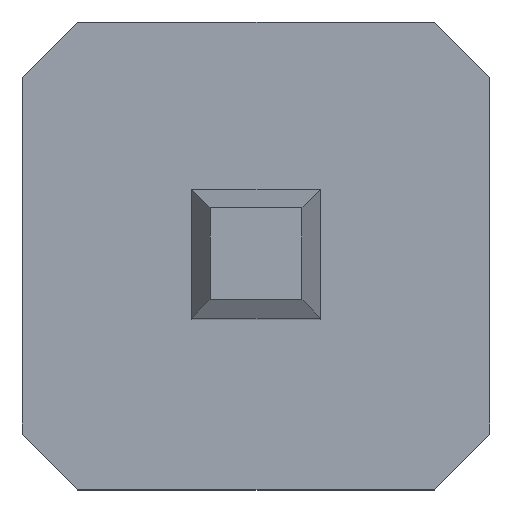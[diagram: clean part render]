
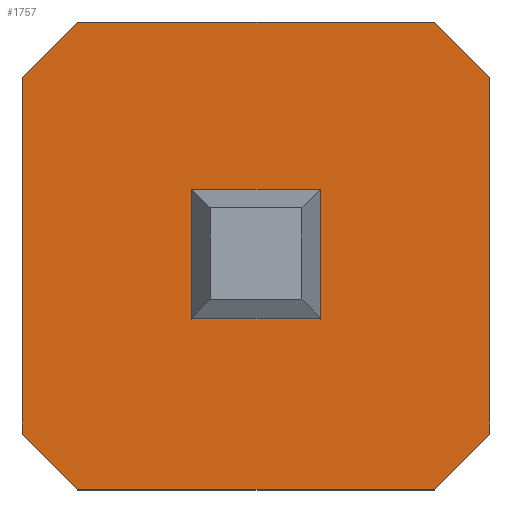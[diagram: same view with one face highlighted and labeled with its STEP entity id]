
A CAD part, top view. The second image highlights one B-rep face of the part: STEP entity #1757.
In plain terms, the highlighted planar face has unit normal (0, 0, 1).
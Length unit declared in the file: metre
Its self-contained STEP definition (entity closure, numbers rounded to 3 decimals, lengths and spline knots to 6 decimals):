
#194=LINE('',#3763,#396);
#196=LINE('',#3767,#398);
#198=LINE('',#3771,#400);
#199=LINE('',#3773,#401);
#218=LINE('',#3814,#420);
#219=LINE('',#3817,#421);
#220=LINE('',#3819,#422);
#221=LINE('',#3821,#423);
#222=LINE('',#3823,#424);
#223=LINE('',#3825,#425);
#224=LINE('',#3827,#426);
#225=LINE('',#3829,#427);
#396=VECTOR('',#2724,1.);
#398=VECTOR('',#2728,1.);
#400=VECTOR('',#2732,1.);
#401=VECTOR('',#2735,1.);
#420=VECTOR('',#2766,1.);
#421=VECTOR('',#2767,1.);
#422=VECTOR('',#2768,1.);
#423=VECTOR('',#2769,1.);
#424=VECTOR('',#2770,1.);
#425=VECTOR('',#2771,1.);
#426=VECTOR('',#2772,1.);
#427=VECTOR('',#2773,1.);
#798=ORIENTED_EDGE('',*,*,#1116,.T.);
#799=ORIENTED_EDGE('',*,*,#1117,.T.);
#800=ORIENTED_EDGE('',*,*,#1118,.T.);
#801=ORIENTED_EDGE('',*,*,#1119,.T.);
#802=ORIENTED_EDGE('',*,*,#1120,.T.);
#803=ORIENTED_EDGE('',*,*,#1121,.T.);
#804=ORIENTED_EDGE('',*,*,#1122,.T.);
#805=ORIENTED_EDGE('',*,*,#1123,.T.);
#806=ORIENTED_EDGE('',*,*,#1092,.F.);
#807=ORIENTED_EDGE('',*,*,#1094,.F.);
#808=ORIENTED_EDGE('',*,*,#1096,.F.);
#809=ORIENTED_EDGE('',*,*,#1097,.F.);
#1092=EDGE_CURVE('',#1260,#1259,#194,.T.);
#1094=EDGE_CURVE('',#1261,#1260,#196,.T.);
#1096=EDGE_CURVE('',#1262,#1261,#198,.T.);
#1097=EDGE_CURVE('',#1259,#1262,#199,.T.);
#1116=EDGE_CURVE('',#1279,#1280,#218,.T.);
#1117=EDGE_CURVE('',#1280,#1281,#219,.T.);
#1118=EDGE_CURVE('',#1281,#1282,#220,.T.);
#1119=EDGE_CURVE('',#1282,#1283,#221,.T.);
#1120=EDGE_CURVE('',#1283,#1284,#222,.T.);
#1121=EDGE_CURVE('',#1284,#1285,#223,.T.);
#1122=EDGE_CURVE('',#1285,#1286,#224,.T.);
#1123=EDGE_CURVE('',#1286,#1279,#225,.T.);
#1259=VERTEX_POINT('',#3760);
#1260=VERTEX_POINT('',#3762);
#1261=VERTEX_POINT('',#3766);
#1262=VERTEX_POINT('',#3770);
#1279=VERTEX_POINT('',#3815);
#1280=VERTEX_POINT('',#3816);
#1281=VERTEX_POINT('',#3818);
#1282=VERTEX_POINT('',#3820);
#1283=VERTEX_POINT('',#3822);
#1284=VERTEX_POINT('',#3824);
#1285=VERTEX_POINT('',#3826);
#1286=VERTEX_POINT('',#3828);
#1389=EDGE_LOOP('',(#798,#799,#800,#801,#802,#803,#804,#805));
#1390=EDGE_LOOP('',(#806,#807,#808,#809));
#1489=FACE_BOUND('',#1389,.T.);
#1490=FACE_BOUND('',#1390,.T.);
#1574=PLANE('',#2404);
#1757=ADVANCED_FACE('',(#1489,#1490),#1574,.T.);
#2404=AXIS2_PLACEMENT_3D('',#3813,#2764,#2765);
#2724=DIRECTION('',(0.,-1.,0.));
#2728=DIRECTION('',(-1.,0.,0.));
#2732=DIRECTION('',(0.,1.,0.));
#2735=DIRECTION('',(1.,0.,0.));
#2764=DIRECTION('',(0.,0.,1.));
#2765=DIRECTION('',(-1.,0.,0.));
#2766=DIRECTION('',(-0.707,0.707,0.));
#2767=DIRECTION('',(-1.,0.,0.));
#2768=DIRECTION('',(-0.707,-0.707,0.));
#2769=DIRECTION('',(0.,-1.,0.));
#2770=DIRECTION('',(0.707,-0.707,0.));
#2771=DIRECTION('',(1.,0.,0.));
#2772=DIRECTION('',(0.707,0.707,0.));
#2773=DIRECTION('',(0.,1.,0.));
#3760=CARTESIAN_POINT('',(-0.136231,-0.007903,0.0125));
#3762=CARTESIAN_POINT('',(-0.136231,-0.007203,0.0125));
#3763=CARTESIAN_POINT('',(-0.136231,-0.007553,0.0125));
#3766=CARTESIAN_POINT('',(-0.135531,-0.007203,0.0125));
#3767=CARTESIAN_POINT('',(-0.135881,-0.007203,0.0125));
#3770=CARTESIAN_POINT('',(-0.135531,-0.007903,0.0125));
#3771=CARTESIAN_POINT('',(-0.135531,-0.007553,0.0125));
#3773=CARTESIAN_POINT('',(-0.135881,-0.007903,0.0125));
#3813=CARTESIAN_POINT('',(-0.135881,-0.007553,0.0125));
#3814=CARTESIAN_POINT('',(-0.134611,-0.006583,0.0125));
#3815=CARTESIAN_POINT('',(-0.134611,-0.006583,0.0125));
#3816=CARTESIAN_POINT('',(-0.134911,-0.006283,0.0125));
#3817=CARTESIAN_POINT('',(-0.134911,-0.006283,0.0125));
#3818=CARTESIAN_POINT('',(-0.136851,-0.006283,0.0125));
#3819=CARTESIAN_POINT('',(-0.136851,-0.006283,0.0125));
#3820=CARTESIAN_POINT('',(-0.137151,-0.006583,0.0125));
#3821=CARTESIAN_POINT('',(-0.137151,-0.008523,0.0125));
#3822=CARTESIAN_POINT('',(-0.137151,-0.008523,0.0125));
#3823=CARTESIAN_POINT('',(-0.136851,-0.008823,0.0125));
#3824=CARTESIAN_POINT('',(-0.136851,-0.008823,0.0125));
#3825=CARTESIAN_POINT('',(-0.134911,-0.008823,0.0125));
#3826=CARTESIAN_POINT('',(-0.134911,-0.008823,0.0125));
#3827=CARTESIAN_POINT('',(-0.134611,-0.008523,0.0125));
#3828=CARTESIAN_POINT('',(-0.134611,-0.008523,0.0125));
#3829=CARTESIAN_POINT('',(-0.134611,-0.008523,0.0125));
